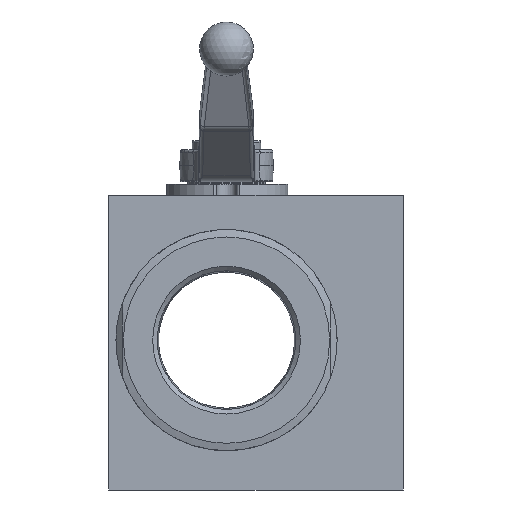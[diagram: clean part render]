
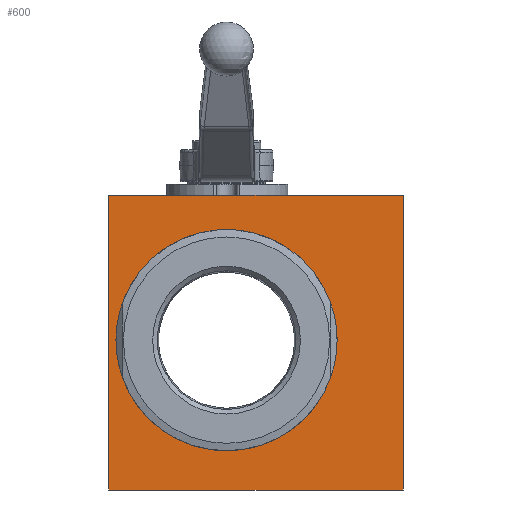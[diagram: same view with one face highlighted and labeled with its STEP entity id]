
A CAD part, front view. The second image highlights one B-rep face of the part: STEP entity #600.
In plain terms, the highlighted planar face has unit normal (0, -1, 0).
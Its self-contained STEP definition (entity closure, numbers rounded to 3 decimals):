
#600 = ADVANCED_FACE( '', ( #1318, #1319 ), #1320, .T. );
#1318 = FACE_OUTER_BOUND( '', #2506, .T. );
#1319 = FACE_BOUND( '', #2507, .T. );
#1320 = PLANE( '', #2508 );
#2506 = EDGE_LOOP( '', ( #4229, #4230, #4231, #4232 ) );
#2507 = EDGE_LOOP( '', ( #4233 ) );
#2508 = AXIS2_PLACEMENT_3D( '', #4234, #4235, #4236 );
#4229 = ORIENTED_EDGE( '', *, *, #6223, .T. );
#4230 = ORIENTED_EDGE( '', *, *, #6421, .T. );
#4231 = ORIENTED_EDGE( '', *, *, #6422, .T. );
#4232 = ORIENTED_EDGE( '', *, *, #6423, .T. );
#4233 = ORIENTED_EDGE( '', *, *, #6160, .T. );
#4234 = CARTESIAN_POINT( '', ( -48., -51., -61. ) );
#4235 = DIRECTION( '', ( 0., -1., 0. ) );
#4236 = DIRECTION( '', ( 0., 0., -1. ) );
#6160 = EDGE_CURVE( '', #7133, #7133, #7134, .T. );
#6223 = EDGE_CURVE( '', #7249, #7247, #7250, .T. );
#6421 = EDGE_CURVE( '', #7247, #7583, #7584, .T. );
#6422 = EDGE_CURVE( '', #7583, #7585, #7586, .T. );
#6423 = EDGE_CURVE( '', #7585, #7249, #7587, .T. );
#7133 = VERTEX_POINT( '', #8556 );
#7134 = CIRCLE( '', #8557, 44. );
#7247 = VERTEX_POINT( '', #8817 );
#7249 = VERTEX_POINT( '', #8820 );
#7250 = LINE( '', #8821, #8822 );
#7583 = VERTEX_POINT( '', #9722 );
#7584 = LINE( '', #9723, #9724 );
#7585 = VERTEX_POINT( '', #9725 );
#7586 = LINE( '', #9726, #9727 );
#7587 = LINE( '', #9728, #9729 );
#8556 = CARTESIAN_POINT( '', ( 44., -51., 0. ) );
#8557 = AXIS2_PLACEMENT_3D( '', #11653, #11654, #11655 );
#8817 = CARTESIAN_POINT( '', ( -48., -51., -61. ) );
#8820 = CARTESIAN_POINT( '', ( -48., -51., 59. ) );
#8821 = CARTESIAN_POINT( '', ( -48., -51., 59. ) );
#8822 = VECTOR( '', #11756, 1000. );
#9722 = CARTESIAN_POINT( '', ( 72., -51., -61. ) );
#9723 = CARTESIAN_POINT( '', ( -48., -51., -61. ) );
#9724 = VECTOR( '', #12035, 1000. );
#9725 = CARTESIAN_POINT( '', ( 72., -51., 59. ) );
#9726 = CARTESIAN_POINT( '', ( 72., -51., -61. ) );
#9727 = VECTOR( '', #12036, 1000. );
#9728 = CARTESIAN_POINT( '', ( 72., -51., 59. ) );
#9729 = VECTOR( '', #12037, 1000. );
#11653 = CARTESIAN_POINT( '', ( 0., -51., 0. ) );
#11654 = DIRECTION( '', ( 0., 1., 0. ) );
#11655 = DIRECTION( '', ( 1., 0., 0. ) );
#11756 = DIRECTION( '', ( 0., 0., -1. ) );
#12035 = DIRECTION( '', ( 1., 0., 0. ) );
#12036 = DIRECTION( '', ( 0., 0., 1. ) );
#12037 = DIRECTION( '', ( -1., 0., 0. ) );
